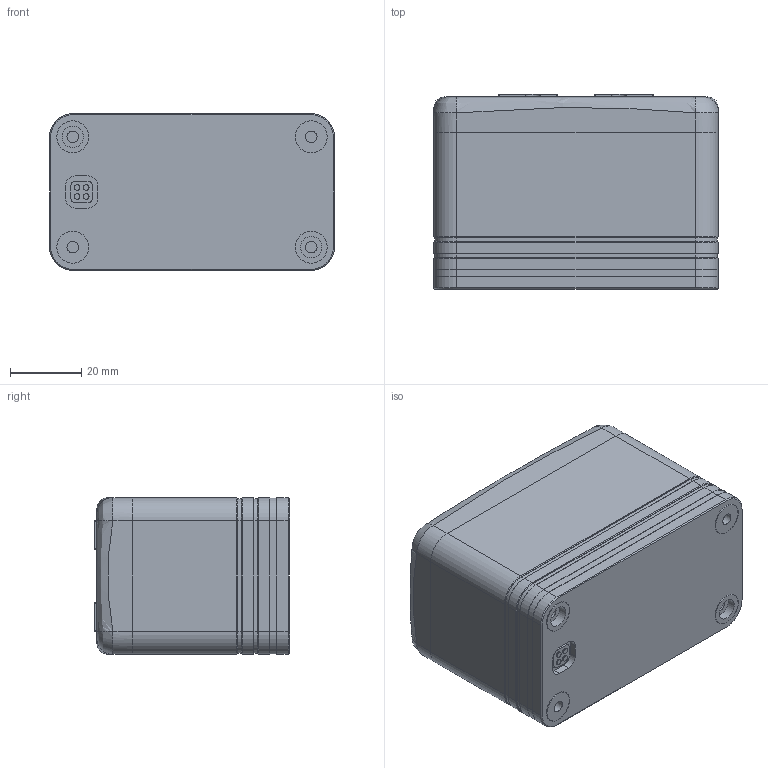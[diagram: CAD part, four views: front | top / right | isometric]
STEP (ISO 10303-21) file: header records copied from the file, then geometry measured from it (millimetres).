
FILE_DESCRIPTION(/* description */ ('CRG 30-030'),/* implementation_level */ '2;1');
FILE_NAME(/* name */ 'D:\CRG\Mechanik\CRG 30-050\Konturvereinfachung\output\crg30-050_customer.stp',/* time_stamp */ '2020-06-15T16:40:51+02:00',/* author */ ('K. Weiß'),/* organization */ ('Weiss Robotics'),/* preprocessor_version */ 'ST-DEVELOPER v17',/* originating_system */ 'Autodesk Inventor 2018',/* authorisation */ '');
FILE_SCHEMA (('AUTOMOTIVE_DESIGN { 1 0 10303 214 3 1 1 }'));
Products named in the file (4): crg_30-050_customer; CRG30-0001; CRG30-0007; CRG30-0003
Assembly tree (4 placements, depth 2):
  crg_30-050_customer
    CRG30-0001
    CRG30-0003  x2
    CRG30-0007
Bounding box: 80 x 55 x 44 mm (x, y, z)
Volume: 180522.8 mm3; surface area: 35994 mm2
Topology: 4 solids, 4 shells, 1133 faces, 2997 edges, 1988 vertices
Faces by surface type: bspline 518, plane 487, cylinder 100, cone 20, torus 8
Full cylindrical faces by diameter (mm): 1.5 x4, 1.6 x4, 2 x4, 2.459 x4, 3.242 x4, 6 x2, 8.97 x4
Entity records: 47149 total; most frequent: CARTESIAN_POINT 22793, ORIENTED_EDGE 5858, DIRECTION 3316, EDGE_CURVE 2929, VERTEX_POINT 1940, LINE 1646, VECTOR 1646, EDGE_LOOP 1223
